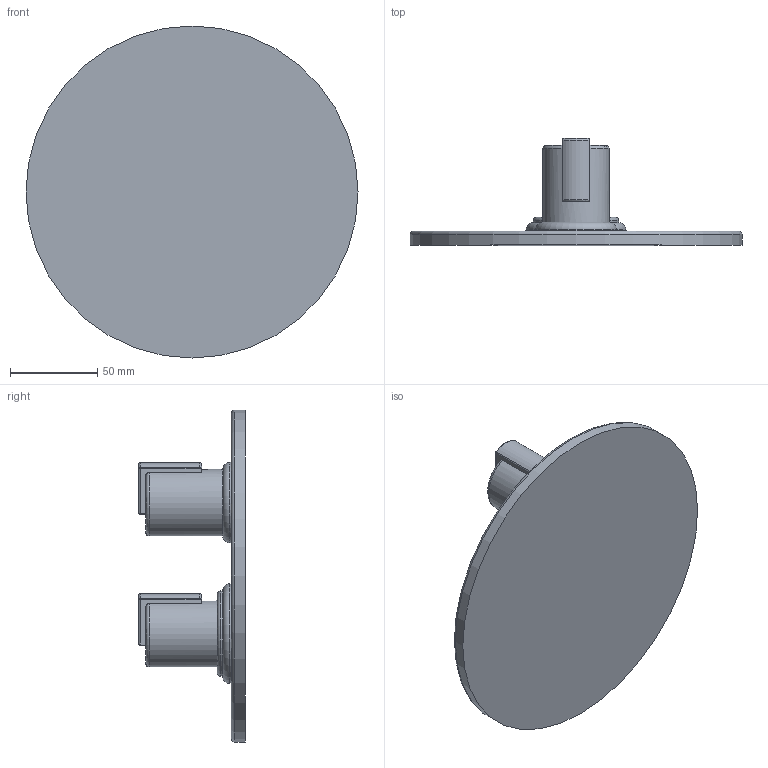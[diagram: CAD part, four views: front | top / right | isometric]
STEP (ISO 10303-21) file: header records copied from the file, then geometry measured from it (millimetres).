
FILE_DESCRIPTION(('STEP AP242'), '1');
FILE_NAME('92CR691TH', '', ('UNSPECIFIED'), ('UNSPECIFIED'), 'ASCON STEP Converter 1.6', 'ASCON Math Kernel', '');
FILE_SCHEMA(('AP242_MANAGED_MODEL_BASED_3D_ENGINEERING_MIM_LF { 1 0 10303 442 1 1 4 }'));
Length unit declared in the file: millimetre
Bounding box: 190 x 61 x 190 mm (x, y, z)
Volume: 358636 mm3; surface area: 91512.9 mm2
Topology: 6 solids, 6 shells, 98 faces, 226 edges, 136 vertices
Faces by surface type: plane 42, cylinder 38, torus 10, sphere 4, bspline 4
Full cylindrical faces by diameter (mm): 38 x2, 46 x1, 49 x1, 57 x1, 190 x1
Entity records: 4408 total; most frequent: CARTESIAN_POINT 1399, DIRECTION 460, ORIENTED_EDGE 416, EDGE_CURVE 208, AXIS2_PLACEMENT_3D 177, VERTEX_POINT 136, EDGE_LOOP 112, LINE 106
